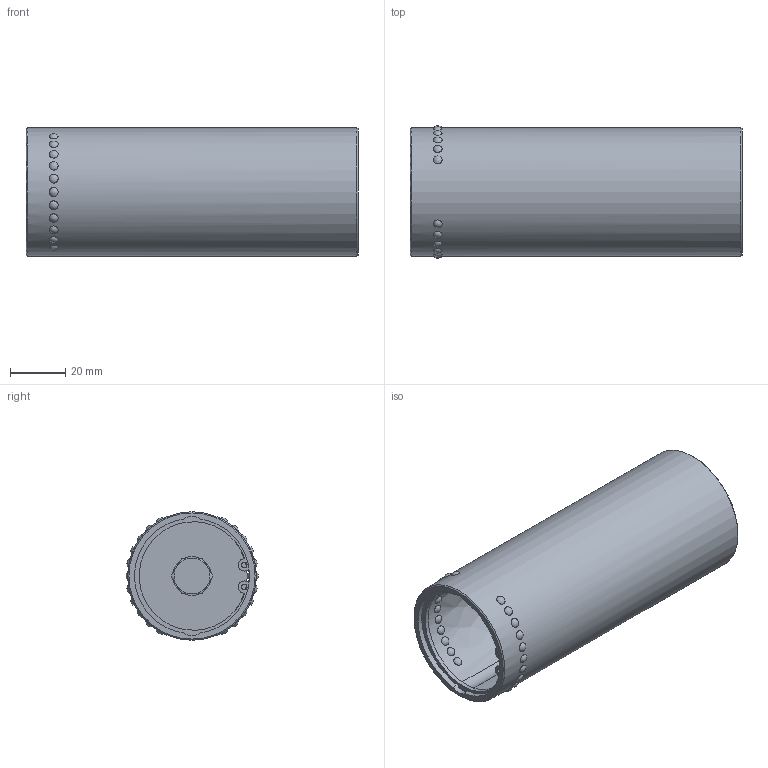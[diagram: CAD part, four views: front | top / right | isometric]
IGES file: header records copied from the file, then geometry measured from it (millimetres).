
Global section: file name: GSAB40120.ipt; native system: Autodesk Inventor 2021; preprocessor: unknown; author: SM; date: 20220119.063627; units: millimetre
Bounding box: 120 x 48 x 46.4 mm (x, y, z)
Volume: 43647.1 mm3; surface area: 39127.3 mm2
Topology: 5 solids, 5 shells, 99 faces, 175 edges, 132 vertices
Faces by surface type: sphere 44, plane 22, revolution 13, cylinder 11, cone 9
Full cylindrical faces by diameter (mm): 8 x1, 12 x1, 14 x1, 46.4 x1
